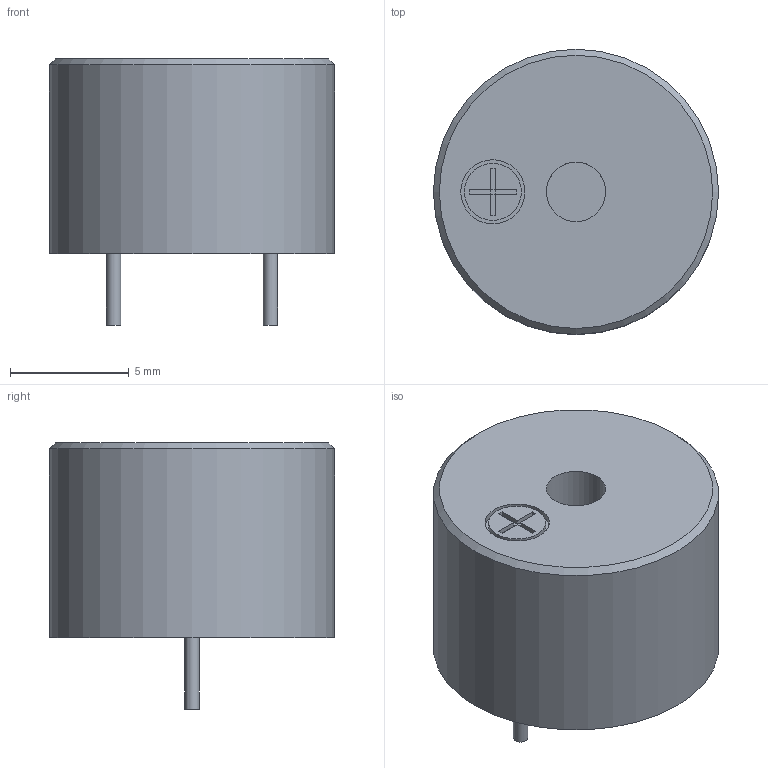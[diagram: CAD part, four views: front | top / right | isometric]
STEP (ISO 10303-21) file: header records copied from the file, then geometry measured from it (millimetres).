
FILE_DESCRIPTION(('FreeCAD Model'),'2;1');
FILE_NAME('Open CASCADE Shape Model','2023-01-20T17:42:29',( 'kicad StepUp'),('ksu MCAD'),'Open CASCADE STEP processor 7.6', 'FreeCAD','Unknown');
FILE_SCHEMA(('AUTOMOTIVE_DESIGN { 1 0 10303 214 1 1 1 1 }'));
Length unit declared in the file: millimetre
Products named in the file (1): 12085_buzzer
Bounding box: 12 x 12 x 11.2 mm (x, y, z)
Volume: 915.2 mm3; surface area: 566.3 mm2
Topology: 1 solids, 1 shells, 31 faces, 60 edges, 37 vertices
Faces by surface type: plane 24, cylinder 6, cone 1
Full cylindrical faces by diameter (mm): 0.6 x2, 2.4 x1, 2.5 x1, 2.7 x1, 12 x1
Entity records: 981 total; most frequent: DIRECTION 137, CARTESIAN_POINT 129, ORIENTED_EDGE 120, EDGE_CURVE 60, LINE 47, VECTOR 47, AXIS2_PLACEMENT_3D 45, FACE_BOUND 37
